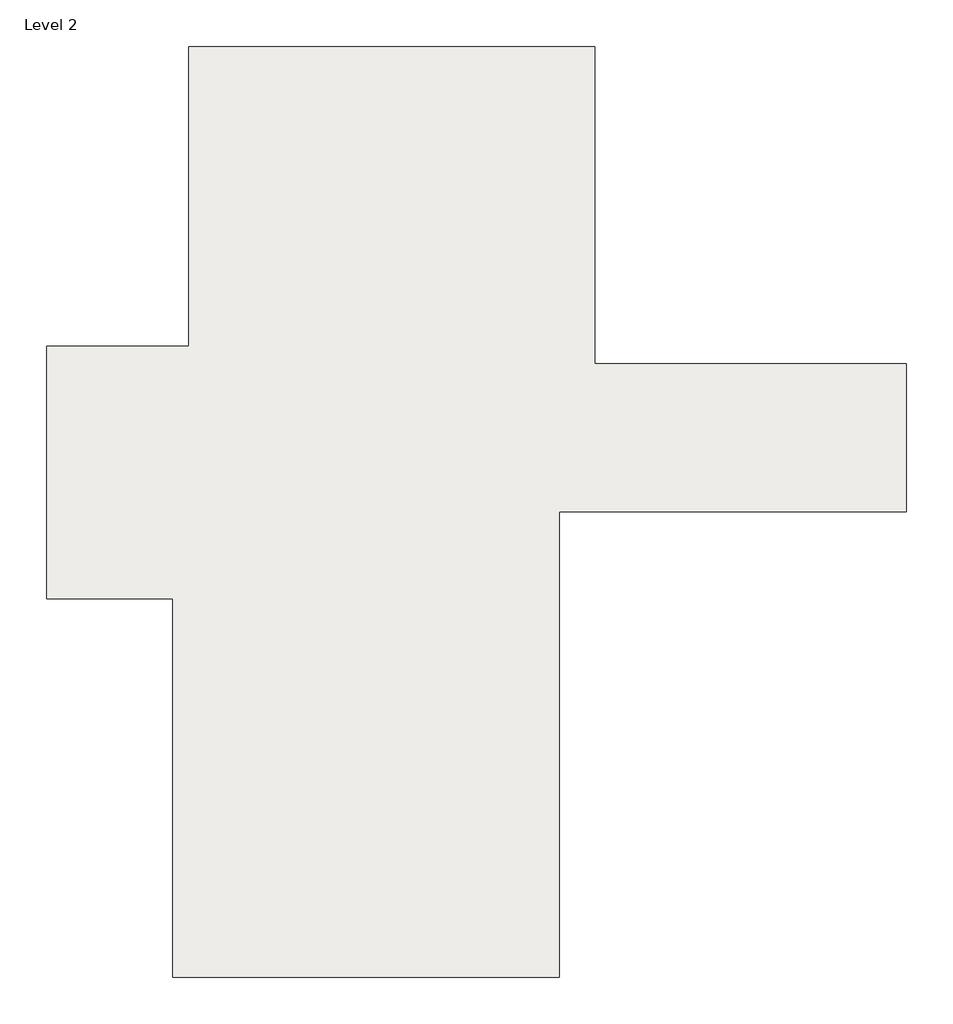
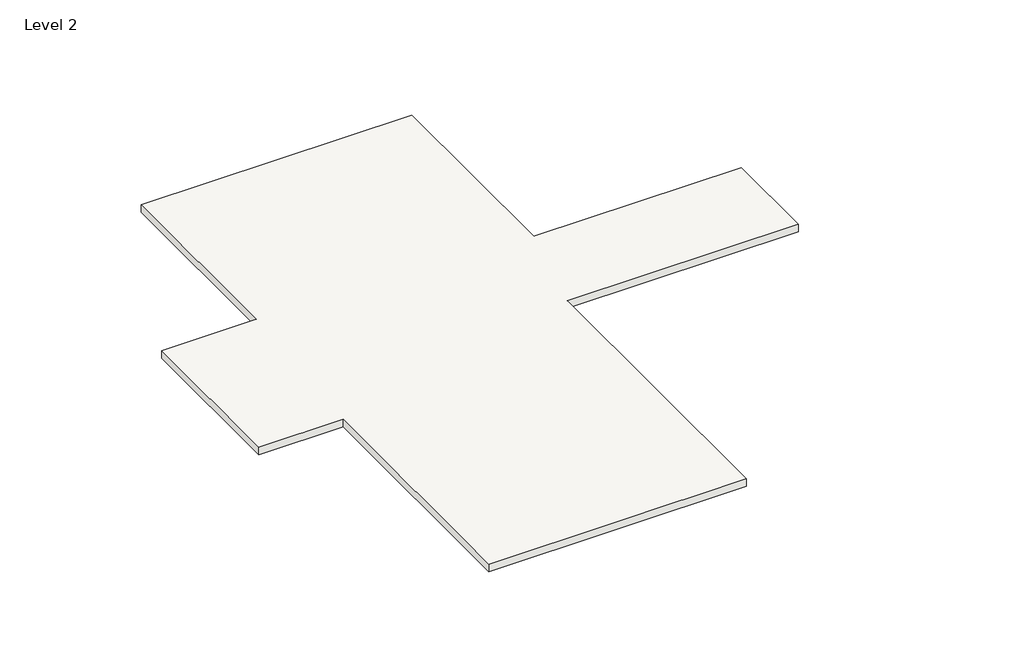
# One storey: 1 slab.
"""IFC4 building model written with IfcOpenShell, lengths in millimetres."""

import ifcopenshell
import ifcopenshell.guid

model = None  # the IFC model being written
_history = None  # IfcOwnerHistory: only IFC2X3 demands one
_inside = {}  # id of a spatial element -> (the spatial element, [elements in it])
_under = {}  # id of a project, library or spatial element -> (it, [spatial elements below it])
_declared = {}  # id of a project -> (the project, [libraries it declares])
_typed = {}  # id of a type object -> (the type object, [elements of that type])
_made_of = {}  # id of a material, layer set ... -> (it, [elements and type objects made of it])


def new_model(schema):
    """Start an empty IFC model of exactly this schema.

    Asked for "IFC4X3", IfcOpenShell would pick the latest addendum, in which some entities
    have other attributes; the version numbers below select the first issue.
    IFC2X3 requires an IfcOwnerHistory on every rooted entity: one is made here for all.
    """
    global model, _history
    if schema == "IFC4X3":
        model = ifcopenshell.file(schema_version=(4, 3, 0, 0))
    else:
        model = ifcopenshell.file(schema=schema)
    _inside.clear()
    _under.clear()
    _declared.clear()
    _typed.clear()
    _made_of.clear()
    _history = None
    if model.schema == "IFC2X3":
        org = make("IfcOrganization", Name="unknown")
        user = make(
            "IfcPersonAndOrganization",
            ThePerson=make("IfcPerson", FamilyName="unknown"),
            TheOrganization=org,
        )
        app = make(
            "IfcApplication",
            ApplicationDeveloper=org,
            Version="unknown",
            ApplicationFullName="unknown",
            ApplicationIdentifier="unknown",
        )
        _history = make(
            "IfcOwnerHistory",
            OwningUser=user,
            OwningApplication=app,
            ChangeAction="ADDED",
            CreationDate=0,
        )
    return model


def make(cls, **values):
    """One entity of the class cls with the attributes given. An attribute that is None is left unset."""
    return model.create_entity(
        cls, **{name: value for name, value in values.items() if value is not None}
    )


def rooted(cls, **values):
    """An entity with a GlobalId (a new one), such as an element, a storey or a relation."""
    return make(cls, GlobalId=ifcopenshell.guid.new(), OwnerHistory=_history, **values)


def si_unit(unit_type, name, prefix=None):
    """IfcSIUnit, for example si_unit("LENGTHUNIT", "METRE", prefix="MILLI")."""
    return make("IfcSIUnit", UnitType=unit_type, Prefix=prefix, Name=name)


def assignment(units):
    """IfcUnitAssignment: the units of a project."""
    return None if units is None else make("IfcUnitAssignment", Units=units)


def point(xyz):
    """IfcCartesianPoint."""
    return None if xyz is None else make("IfcCartesianPoint", Coordinates=xyz)


def direction(xyz):
    """IfcDirection."""
    return None if xyz is None else make("IfcDirection", DirectionRatios=xyz)


def frame(location, z_axis=None, x_axis=None):
    """IfcAxis2Placement3D, a coordinate frame: its origin and axes. An axis left out is left unset."""
    return make(
        "IfcAxis2Placement3D",
        Location=point(location),
        Axis=direction(z_axis),
        RefDirection=direction(x_axis),
    )


def origin():
    """The frame at (0, 0, 0) with its axes left unset."""
    return frame((0.0, 0.0, 0.0))


def place(relative_to, where):
    """IfcLocalPlacement: puts the frame where relative to a parent placement (None: the world)."""
    return make(
        "IfcLocalPlacement", PlacementRelTo=relative_to, RelativePlacement=where
    )


def context(
    kind, dimensions, precision=None, world=None, true_north=None, identifier=None
):
    """IfcGeometricRepresentationContext, for example the 3D "Model" context."""
    return make(
        "IfcGeometricRepresentationContext",
        ContextIdentifier=identifier,
        ContextType=kind,
        CoordinateSpaceDimension=dimensions,
        Precision=precision,
        WorldCoordinateSystem=world,
        TrueNorth=true_north,
    )


def project(units=None, contexts=None):
    """IfcProject with its units and contexts."""
    return rooted(
        "IfcProject",
        Name="project",
        RepresentationContexts=contexts,
        UnitsInContext=assignment(units),
    )


def spatial(cls, under=None, at=None, **own):
    """A site, building, storey or space (cls), placed at a placement, below another one or the project."""
    s = rooted(cls, ObjectPlacement=at, **own)
    if under is not None:
        _under.setdefault(under.id(), (under, []))[1].append(s)
    return s


def polyline(points):
    """IfcPolyline through the points."""
    return make("IfcPolyline", Points=[point(p) for p in points])


def outline(outer, holes=None, kind="AREA"):
    """IfcArbitraryClosedProfileDef: a profile drawn as a closed curve; with holes, ...WithVoids."""
    if holes is None:
        return make("IfcArbitraryClosedProfileDef", ProfileType=kind, OuterCurve=outer)
    return make(
        "IfcArbitraryProfileDefWithVoids",
        ProfileType=kind,
        OuterCurve=outer,
        InnerCurves=holes,
    )


def extrude(swept, where, along, depth):
    """IfcExtrudedAreaSolid: the profile swept, set in the frame where, extruded along a direction by depth."""
    return make(
        "IfcExtrudedAreaSolid",
        SweptArea=swept,
        Position=where,
        ExtrudedDirection=direction(along),
        Depth=depth,
    )


def shape(context_of_items, identifier, shape_type, items):
    """IfcShapeRepresentation: the items that make up one representation, for example the "Body"."""
    return make(
        "IfcShapeRepresentation",
        ContextOfItems=context_of_items,
        RepresentationIdentifier=identifier,
        RepresentationType=shape_type,
        Items=items,
    )


def made_of(thing, what):
    """Note that an element or type object is made of a material, layer set ...; save() writes the relation."""
    if what is not None:
        _made_of.setdefault(what.id(), (what, []))[1].append(thing)
    return thing


def element(
    cls,
    number,
    at=None,
    inside=None,
    cuts=None,
    type_object=None,
    material=None,
    context=None,
    identifier="Body",
    shape_type=None,
    held_by="IfcProductDefinitionShape",
    body=None,
    shapes=None,
    **own,
):
    """One element of the class cls, such as IfcWall. Its Tag is "e" and its number.

    at: its placement. inside: the storey or other place that contains it. cuts: it is an
    opening in that element (IfcRelVoidsElement). A single representation is given by context,
    identifier, shape_type and body (its items); several are given by shapes. held_by: the class
    of the entity that holds the representations. save() writes the other relations.
    """
    e = rooted(cls, Tag="e%d" % number, ObjectPlacement=at, **own)
    if body is not None:
        shapes = [shape(context, identifier, shape_type, body)]
    if shapes is not None:
        e.Representation = make(held_by, Representations=shapes)
    if inside is not None:
        _inside.setdefault(inside.id(), (inside, []))[1].append(e)
    if cuts is not None:
        rooted(
            "IfcRelVoidsElement", RelatingBuildingElement=cuts, RelatedOpeningElement=e
        )
    if type_object is not None:
        _typed.setdefault(type_object.id(), (type_object, []))[1].append(e)
    return made_of(e, material)


def aggregate(whole, parts):
    """IfcRelAggregates: a whole, such as a stair, and the parts it consists of."""
    return rooted("IfcRelAggregates", RelatingObject=whole, RelatedObjects=parts)


def save(model, path):
    """Write the relations noted so far, then the file.

    IfcRelAggregates (storeys below a building ...), IfcRelContainedInSpatialStructure (elements
    in a storey), IfcRelDefinesByType, IfcRelAssociatesMaterial and IfcRelDeclares: one each for
    every whole, place, type object, material and project.
    """
    for whole, parts in _under.values():
        aggregate(whole, parts)
    for where, things in _inside.values():
        rooted(
            "IfcRelContainedInSpatialStructure",
            RelatedElements=things,
            RelatingStructure=where,
        )
    for kind, things in _typed.values():
        rooted("IfcRelDefinesByType", RelatedObjects=things, RelatingType=kind)
    for what, things in _made_of.values():
        rooted("IfcRelAssociatesMaterial", RelatedObjects=things, RelatingMaterial=what)
    for by, libraries in _declared.values():
        rooted("IfcRelDeclares", RelatingContext=by, RelatedDefinitions=libraries)
    model.write(path)


model = new_model("IFC4")

# Units and contexts
model_context = context("Model", 3, world=origin())
ifc_project = project(units=[si_unit("LENGTHUNIT", "METRE", prefix="MILLI")], contexts=[model_context])

# Site, building, storey
site = spatial("IfcSite", under=ifc_project)
building = spatial("IfcBuilding", under=site)
storey = spatial("IfcBuildingStorey", under=building, Name="Level 2", Elevation=3400.0)

# Slab
placement = place(None, origin())
element("IfcSlab", 1, ObjectType="Generic 150mm", at=placement, inside=storey, context=model_context, shape_type="SweptSolid", body=[
    extrude(outline(polyline([(-1417.2426281, 6910.1043853), (-1417.2426281, 2890.1043853), (2532.7573719, 2890.1043853), (2532.7573719, 1010.1043853), (-1867.2426281, 1010.1043853), (-1867.2426281, -4889.8956147), (-6767.2426281, -4889.8956147), (-6767.2426281, -89.8956147), (-8367.2426281, -89.8956147), (-8367.2426281, 3110.1043853), (-6567.2426281, 3110.1043853), (-6567.2426281, 6910.1043853), (-1417.2426281, 6910.1043853)])), frame((0.0, 0.0, 3250.0), z_axis=(0.0, 0.0, 1.0), x_axis=(1.0, 0.0, 0.0)), (0.0, 0.0, 1.0), 150.0),
])

save(model, "model.ifc")
